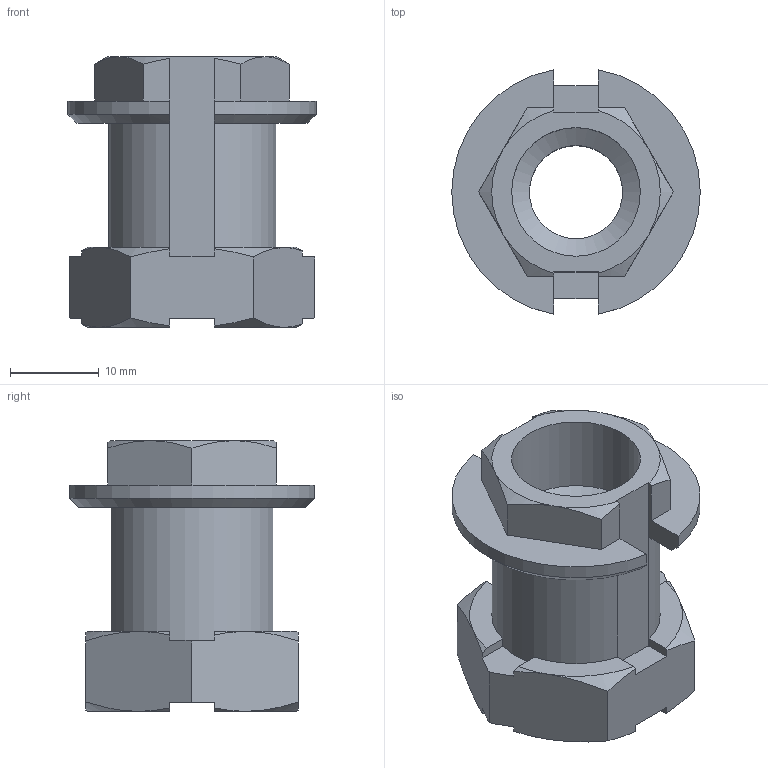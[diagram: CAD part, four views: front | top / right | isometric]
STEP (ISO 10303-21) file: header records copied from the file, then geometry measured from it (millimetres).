
FILE_DESCRIPTION(('STEP AP214'),'1');
FILE_NAME(').stp','2026-03-18T07:37:06',(' '),(' '),'Spatial InterOp 3D',' ',' ');
FILE_SCHEMA(('AUTOMOTIVE_DESIGN { 1 0 10303 214 1 1 1 1 }'));
Length unit declared in the file: millimetre
Products named in the file (3): LFK-M12; NUT; FITTING
Assembly tree (2 placements, depth 2):
  LFK-M12
    NUT
    FITTING
Bounding box: 28 x 27.55 x 30.5 mm (x, y, z)
Volume: 7551 mm3; surface area: 5078.3 mm2
Topology: 2 solids, 2 shells, 96 faces, 265 edges, 173 vertices
Faces by surface type: plane 52, cone 29, cylinder 15
Full cylindrical faces by diameter (mm): 10.5 x2, 14.5 x1
Entity records: 3956 total; most frequent: CARTESIAN_POINT 787, ORIENTED_EDGE 516, DIRECTION 446, EDGE_CURVE 258, VERTEX_POINT 170, AXIS2_PLACEMENT_3D 157, LINE 132, VECTOR 132
